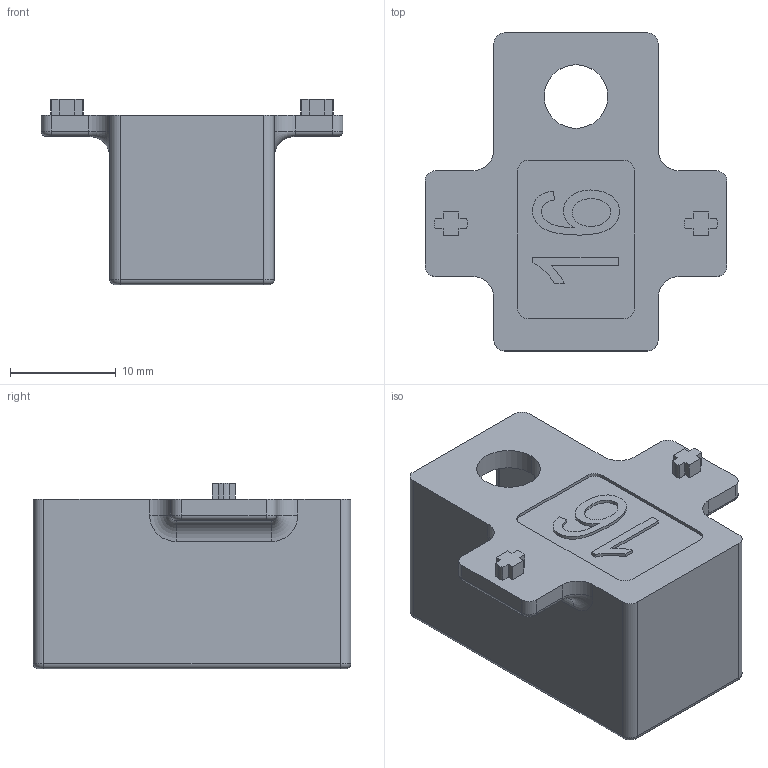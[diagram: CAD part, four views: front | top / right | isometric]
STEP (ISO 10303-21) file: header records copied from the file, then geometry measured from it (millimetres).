
FILE_DESCRIPTION (( 'STEP AP214' ), '1' );
FILE_NAME ('TPL-H-APC-018 09Oct2024.STEP', '2024-10-09T04:53:14', ( '' ), ( '' ), 'SwSTEP 2.0', 'SolidWorks 2023', '' );
FILE_SCHEMA (( 'AUTOMOTIVE_DESIGN' ));
Length unit declared in the file: millimetre
Products named in the file (1): TPL-H-APC-018 09Oct2024
Bounding box: 28.5 x 30 x 17.5 mm (x, y, z)
Volume: 3638.3 mm3; surface area: 3714 mm2
Topology: 1 solids, 1 shells, 157 faces, 394 edges, 240 vertices
Faces by surface type: plane 57, cylinder 56, torus 21, bspline 16, sphere 7
Entity records: 5457 total; most frequent: CARTESIAN_POINT 1714, DIRECTION 780, ORIENTED_EDGE 776, EDGE_CURVE 388, AXIS2_PLACEMENT_3D 282, VERTEX_POINT 240, LINE 216, VECTOR 216
